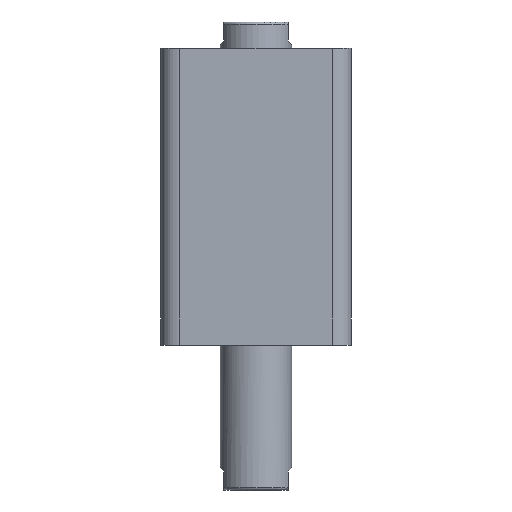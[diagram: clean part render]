
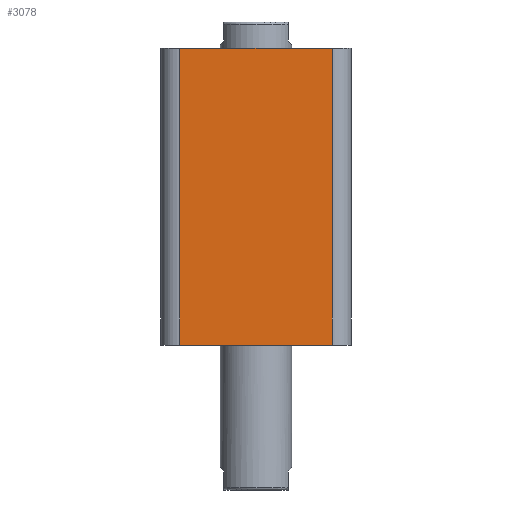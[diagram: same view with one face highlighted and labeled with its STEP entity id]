
A CAD part, front view. The second image highlights one B-rep face of the part: STEP entity #3078.
In plain terms, the highlighted planar face has unit normal (0, -1, 0).
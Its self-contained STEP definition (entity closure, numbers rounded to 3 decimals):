
#196 = ORIENTED_EDGE ( 'NONE', *, *, #1416, .F. ) ;
#197 = ORIENTED_EDGE ( 'NONE', *, *, #409, .T. ) ;
#198 = ORIENTED_EDGE ( 'NONE', *, *, #1414, .T. ) ;
#199 = ORIENTED_EDGE ( 'NONE', *, *, #2729, .T. ) ;
#409 = EDGE_CURVE ( 'NONE', #2957, #2967, #2002, .T. ) ;
#443 = CARTESIAN_POINT ( 'NONE',  ( 32., -40., 125. ) ) ;
#444 = DIRECTION ( 'NONE',  ( 0., 0., 1. ) ) ;
#562 = CARTESIAN_POINT ( 'NONE',  ( -32., -40., 125. ) ) ;
#571 = CARTESIAN_POINT ( 'NONE',  ( 32., -40., 125. ) ) ;
#572 = CARTESIAN_POINT ( 'NONE',  ( -32., -40., 0. ) ) ;
#573 = CARTESIAN_POINT ( 'NONE',  ( 32., -40., 0. ) ) ;
#690 = CARTESIAN_POINT ( 'NONE',  ( -40., -40., 125. ) ) ;
#692 = PLANE ( 'NONE',  #1278 ) ;
#694 = DIRECTION ( 'NONE',  ( 0., 1., 0. ) ) ;
#695 = DIRECTION ( 'NONE',  ( 0., 0., 1. ) ) ;
#1278 = AXIS2_PLACEMENT_3D ( 'NONE', #690, #694, #695 ) ;
#1414 = EDGE_CURVE ( 'NONE', #2967, #2968, #2222, .T. ) ;
#1416 = EDGE_CURVE ( 'NONE', #2957, #2966, #2225, .T. ) ;
#1790 = DIRECTION ( 'NONE',  ( 1., 0., 0. ) ) ;
#1797 = CARTESIAN_POINT ( 'NONE',  ( -40., -40., 0. ) ) ;
#1805 = CARTESIAN_POINT ( 'NONE',  ( -40., -40., 125. ) ) ;
#1806 = DIRECTION ( 'NONE',  ( 1., 0., 0. ) ) ;
#2002 = LINE ( 'NONE', #2675, #2005 ) ;
#2005 = VECTOR ( 'NONE', #2655, 1000. ) ;
#2222 = LINE ( 'NONE', #1797, #2224 ) ;
#2224 = VECTOR ( 'NONE', #1790, 1000. ) ;
#2225 = LINE ( 'NONE', #1805, #2228 ) ;
#2228 = VECTOR ( 'NONE', #1806, 1000. ) ;
#2277 = LINE ( 'NONE', #443, #2279 ) ;
#2279 = VECTOR ( 'NONE', #444, 1000. ) ;
#2353 = FACE_OUTER_BOUND ( 'NONE', #2835, .T. ) ;
#2655 = DIRECTION ( 'NONE',  ( 0., 0., -1. ) ) ;
#2675 = CARTESIAN_POINT ( 'NONE',  ( -32., -40., 125. ) ) ;
#2729 = EDGE_CURVE ( 'NONE', #2968, #2966, #2277, .T. ) ;
#2835 = EDGE_LOOP ( 'NONE', ( #196, #197, #198, #199 ) ) ;
#2957 = VERTEX_POINT ( 'NONE', #562 ) ;
#2966 = VERTEX_POINT ( 'NONE', #571 ) ;
#2967 = VERTEX_POINT ( 'NONE', #572 ) ;
#2968 = VERTEX_POINT ( 'NONE', #573 ) ;
#3078 = ADVANCED_FACE ( 'NONE', ( #2353 ), #692, .F. ) ;
